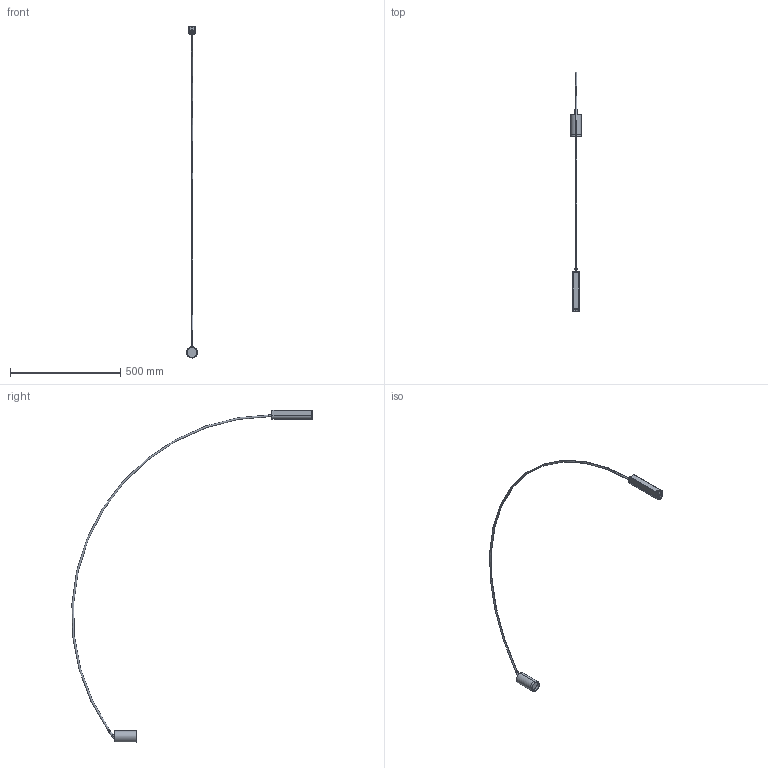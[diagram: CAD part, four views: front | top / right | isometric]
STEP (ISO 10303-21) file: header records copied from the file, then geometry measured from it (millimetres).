
FILE_DESCRIPTION (( 'STEP AP203' ), '1' );
FILE_NAME ('FOX_WALL_3D.STEP', '2022-03-17T14:36:59', ( '' ), ( '' ), 'SwSTEP 2.0', 'SolidWorks 2016', '' );
FILE_SCHEMA (( 'CONFIG_CONTROL_DESIGN' ));
Length unit declared in the file: millimetre
Products named in the file (12): 010FOX703300_STAFFA MURO FOX; STELO_SEMP; Ass_Tubo corto Inferiore + connettore; 052FOX100600_BOCCOLA FOX; TESTA SPOT_SEMP; 220FOX000100_Scheda Pulsante Fox parete_con fori FOX; 052COM703100_TAPPO INF COVER STAFFA MURO; 051FOX700700_COVER STAFFA MURO AL; 010FOX703000_STELO INFERIORE PARETE; FOX_3d semplificato; GIUNTO_SEMP; FOX_WALL_3D
Assembly tree (11 placements, depth 3):
  FOX_WALL_3D
    Ass_Tubo corto Inferiore + connettore
      010FOX703000_STELO INFERIORE PARETE
    010FOX703300_STAFFA MURO FOX
    051FOX700700_COVER STAFFA MURO AL
    052COM703100_TAPPO INF COVER STAFFA MURO
    220FOX000100_Scheda Pulsante Fox parete_con fori FOX
    052FOX100600_BOCCOLA FOX
    FOX_3d semplificato
      STELO_SEMP
      GIUNTO_SEMP
      TESTA SPOT_SEMP
Bounding box: 50 x 1089.39 x 1505.62 mm (x, y, z)
Volume: 320720 mm3; surface area: 131836.3 mm2
Topology: 10 solids, 10 shells, 178 faces, 425 edges, 274 vertices
Faces by surface type: plane 101, cylinder 58, torus 9, cone 8, bspline 2
Entity records: 6526 total; most frequent: CARTESIAN_POINT 991, DIRECTION 942, ORIENTED_EDGE 850, EDGE_CURVE 425, AXIS2_PLACEMENT_3D 339, VERTEX_POINT 274, LINE 264, VECTOR 264
